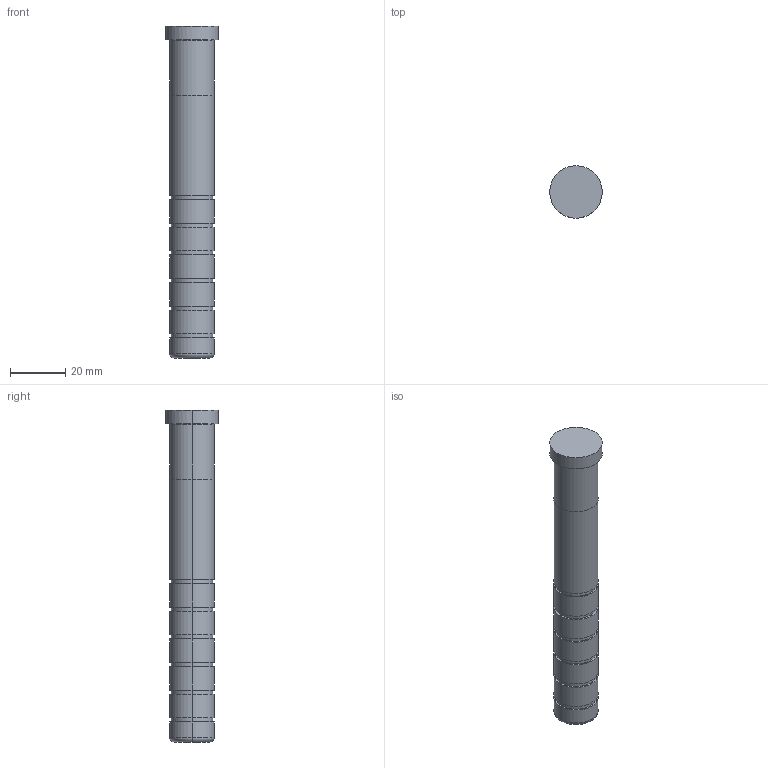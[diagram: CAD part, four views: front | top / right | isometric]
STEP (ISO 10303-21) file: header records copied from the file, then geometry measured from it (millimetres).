
FILE_DESCRIPTION(/* description */ (''),/* implementation_level */ '2;1');
FILE_NAME(/* name */ '3d_sgoh16-120_05208_r00.stp',/* time_stamp */ '2011-01-10T14:11:09+09:00',/* author */ ('MISUMI'),/* organization */ (''),/* preprocessor_version */ 'ST-DEVELOPER v11',/* originating_system */ 'UGS - NX 5.0',/* authorisation */ '');
FILE_SCHEMA (('CONFIG_CONTROL_DESIGN'));
Length unit declared in the file: millimetre
Products named in the file (1): 3d_sgoh16-120_05208_r00
Bounding box: 19 x 19 x 120 mm (x, y, z)
Volume: 24298.1 mm3; surface area: 6871.2 mm2
Topology: 1 solids, 1 shells, 49 faces, 96 edges, 62 vertices
Faces by surface type: cylinder 30, plane 15, torus 4
Entity records: 1374 total; most frequent: DIRECTION 262, CARTESIAN_POINT 208, ORIENTED_EDGE 192, AXIS2_PLACEMENT_3D 116, EDGE_CURVE 96, CIRCLE 66, EDGE_LOOP 62, VERTEX_POINT 62
